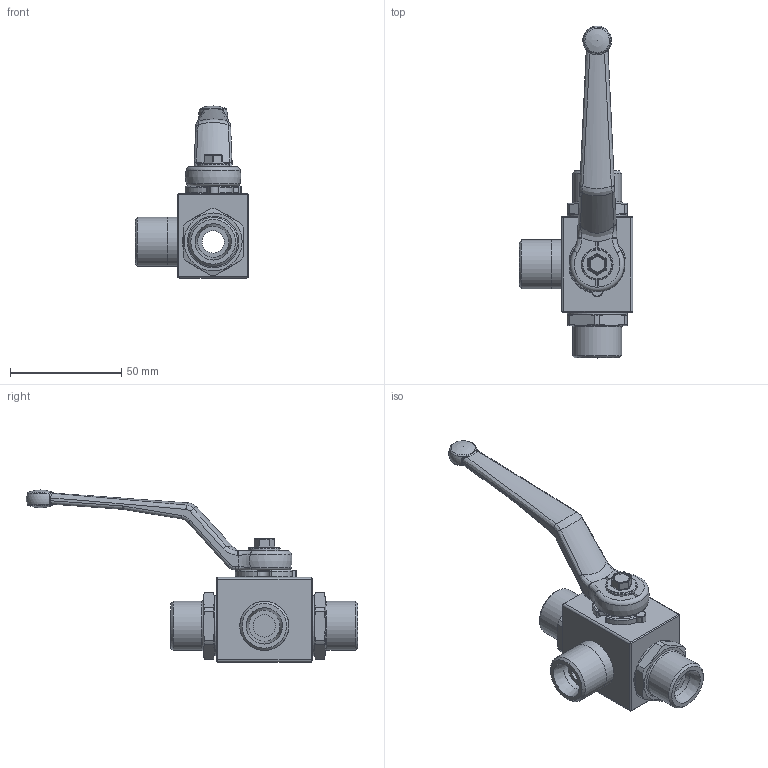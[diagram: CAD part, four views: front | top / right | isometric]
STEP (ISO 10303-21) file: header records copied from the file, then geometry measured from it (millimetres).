
FILE_DESCRIPTION( ( 'Unknown' ), '1' );
FILE_NAME( 'H:/PISTER/3D-MODELLE/BK3 stp/BK3 DN10 14S.stp', 'Unknown', ( 'Unknown' ), ( 'Unknown' ), 'PSStep 14.0', 'Unknown', ' ' );
FILE_SCHEMA( ( 'AUTOMOTIVE_DESIGN { 1 0 10303 214 1 1 1 1 }' ) );
Length unit declared in the file: millimetre
Products named in the file (10): Assem1; 06-010-104-oa7; 09-09-002; 58-28740-07-oa8; Griff_SW9; 58-0933-133; 04-010-102-oa9; 04-010-102-oa10; 01-010-045-oa11; 04-010-095-oa12
Assembly tree (9 placements, depth 2):
  Assem1
    06-010-104-oa7
    09-09-002
    58-28740-07-oa8
    Griff_SW9
    58-0933-133
    04-010-102-oa9
    04-010-102-oa10
    01-010-045-oa11
    04-010-095-oa12
Bounding box: 51 x 149 x 77.3 mm (x, y, z)
Volume: 40532 mm3; surface area: 30489.8 mm2
Topology: 9 solids, 9 shells, 384 faces, 941 edges, 565 vertices
Faces by surface type: cylinder 127, plane 125, bspline 42, torus 40, cone 30, sphere 20
Full cylindrical faces by diameter (mm): 4.2 x1, 4.98 x1, 5 x1, 10 x3, 14 x5, 14.3 x1, 22 x4, 22.1 x1, 27 x2, 27.5 x2
Entity records: 15666 total; most frequent: CARTESIAN_POINT 3933, DIRECTION 1835, ORIENTED_EDGE 1688, EDGE_CURVE 844, AXIS2_PLACEMENT_3D 749, VERTEX_POINT 540, EDGE_LOOP 466, FACE_OUTER_BOUND 417
